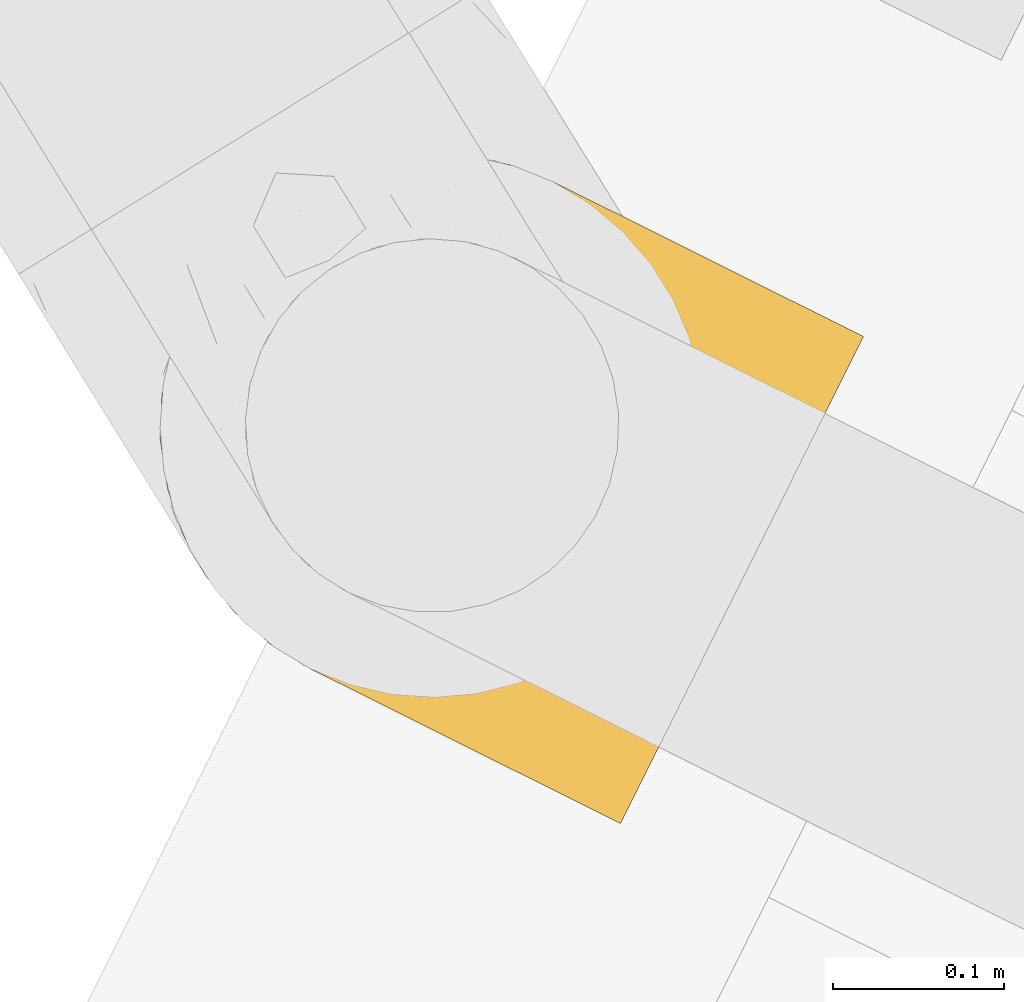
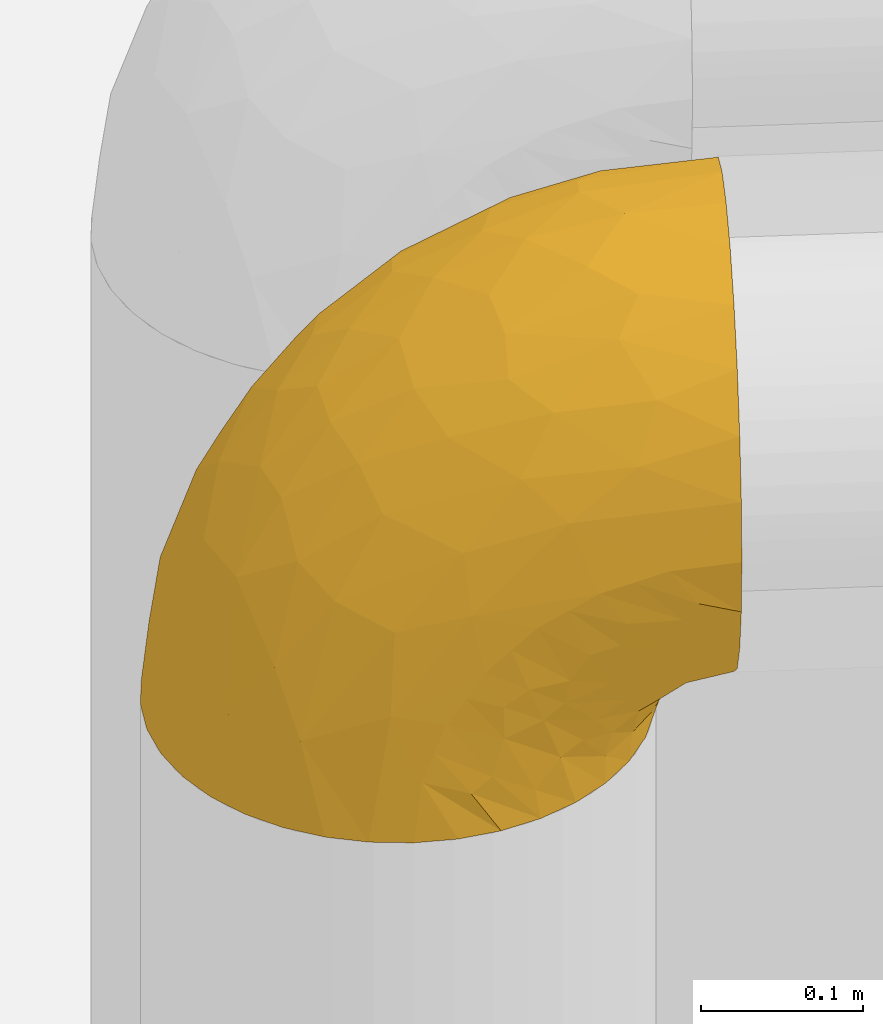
# One storey, part 43 of 91: 1 covering.
"""IFC2X3 building model written with IfcOpenShell, lengths in metres."""

from ifc_helpers import new_model, entity, si_unit, converted_unit, derived_unit, direction, frame, origin, place, context, subcontext, project, spatial, faceted_brep, element, save


model = new_model("IFC2X3")

# Units and contexts
model_context = context("Model", 3, precision=1e-05, world=origin(), true_north=direction((0.894925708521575, 0.446215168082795)))
context_of_model = context(None, 3, precision=1e-05, world=origin(), true_north=direction((0.894925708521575, 0.446215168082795)))
body_context = subcontext(model_context, "Body", "Model", "MODEL_VIEW")
ifc_project = project(units=[si_unit("LENGTHUNIT", "METRE"), si_unit("AREAUNIT", "SQUARE_METRE"), si_unit("VOLUMEUNIT", "CUBIC_METRE"), converted_unit("PLANEANGLEUNIT", "DEGREE", entity("IfcRatioMeasure", 0.0174532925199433), si_unit("PLANEANGLEUNIT", "RADIAN"), dimensions=[0, 0, 0, 0, 0, 0, 0]), si_unit("MASSUNIT", "GRAM", prefix="KILO"), si_unit("TIMEUNIT", "SECOND"), si_unit("FREQUENCYUNIT", "HERTZ"), si_unit("THERMODYNAMICTEMPERATUREUNIT", "DEGREE_CELSIUS"), derived_unit("THERMALTRANSMITTANCEUNIT", [(si_unit("MASSUNIT", "GRAM", prefix="KILO"), 1), (si_unit("THERMODYNAMICTEMPERATUREUNIT", "KELVIN"), -1), (si_unit("TIMEUNIT", "SECOND"), -3)]), derived_unit("VOLUMETRICFLOWRATEUNIT", [(si_unit("LENGTHUNIT", "METRE"), 3), (si_unit("TIMEUNIT", "SECOND"), -1)]), si_unit("ELECTRICCURRENTUNIT", "AMPERE"), si_unit("ELECTRICVOLTAGEUNIT", "VOLT"), si_unit("POWERUNIT", "WATT"), si_unit("FORCEUNIT", "NEWTON", prefix="KILO"), si_unit("ILLUMINANCEUNIT", "LUX"), si_unit("LUMINOUSFLUXUNIT", "LUMEN"), si_unit("LUMINOUSINTENSITYUNIT", "CANDELA"), si_unit("PRESSUREUNIT", "PASCAL")], contexts=[model_context, context_of_model])

# Site, building, storey
site_placement = place(None, frame((218.228324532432, 584.720189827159, 0.0), z_axis=(0.0, 0.0, 1.0), x_axis=(0.446215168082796, 0.894925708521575, 0.0)))
site = spatial("IfcSite", under=ifc_project, at=site_placement, Name="Default", CompositionType="ELEMENT")
building_placement = place(site_placement, origin())
building = spatial("IfcBuilding", under=site, at=building_placement, CompositionType="ELEMENT")
storey_placement = place(building_placement, origin())
storey = spatial("IfcBuildingStorey", under=building, at=storey_placement, Name="0 - Piano Terra", CompositionType="ELEMENT", Elevation=0.0)

# Covering
covering_placement = place(storey_placement, frame((-30.8033657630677, 5.93432603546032, 2.87140472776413)))
element("IfcCovering", 1, at=covering_placement, inside=storey, Name="Isolamento tubazione:Default", ObjectType="Isolamento tubazione:Default", PredefinedType="INSULATION", context=body_context, shape_type="Brep", body=[
    faceted_brep([(0.00401863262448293, 0.232297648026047, 0.00159527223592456), (0.0112173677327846, 0.259164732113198, 0.00159527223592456), (0.022972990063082, 0.284373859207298, 0.00159527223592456), (0.0389245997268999, 0.307154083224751, 0.00159527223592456), (0.0585869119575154, 0.326816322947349, 0.00159527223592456), (0.0813706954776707, 0.342769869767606, 0.00159527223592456), (0.106580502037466, 0.354524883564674, 0.00159527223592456), (0.133444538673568, 0.361722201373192, 0.00159527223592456), (0.161145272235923, 0.364145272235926, 0.00159527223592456), (0.188847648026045, 0.361721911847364, 0.00159527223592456), (0.215714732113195, 0.354523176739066, 0.00159527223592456), (0.240923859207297, 0.342767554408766, 0.00159527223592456), (0.26370408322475, 0.32681594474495, 0.00159527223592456), (0.283366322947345, 0.307153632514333, 0.00159527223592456), (0.299319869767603, 0.284369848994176, 0.00159527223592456), (0.311074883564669, 0.259160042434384, 0.00159527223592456), (0.318272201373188, 0.232296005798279, 0.00159527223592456), (0.320695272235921, 0.204595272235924, 0.00159527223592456), (0.319748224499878, 0.19376920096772, 0.00159527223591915), (0.318271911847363, 0.176892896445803, 0.00159527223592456), (0.314672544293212, 0.163459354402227, 0.00159527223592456), (0.311073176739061, 0.150025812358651, 0.00159527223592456), (0.299317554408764, 0.124816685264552, 0.00159527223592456), (0.283365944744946, 0.102036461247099, 0.00159527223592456), (0.263703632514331, 0.0823742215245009, 0.00159527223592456), (0.240919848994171, 0.0664206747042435, 0.00159527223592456), (0.21571004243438, 0.0546656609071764, 0.00159527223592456), (0.188846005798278, 0.047468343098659, 0.00159527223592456), (0.161145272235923, 0.0450452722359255, 0.00159527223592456), (0.133442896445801, 0.0474686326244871, 0.00159527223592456), (0.106575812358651, 0.0546673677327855, 0.00159527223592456), (0.0813666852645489, 0.066422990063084, 0.00159527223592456), (0.0585864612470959, 0.0823745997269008, 0.00159527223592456), (0.0389242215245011, 0.102036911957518, 0.00159527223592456), (0.0229706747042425, 0.124820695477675, 0.00159527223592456), (0.0112156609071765, 0.150030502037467, 0.00159527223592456), (0.00401834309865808, 0.176894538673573, 0.00159527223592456), (0.00254226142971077, 0.193769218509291, 0.00159527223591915), (0.00159527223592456, 0.204595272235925, 0.00159527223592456), (0.273964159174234, 0.0015952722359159, 0.0917763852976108), (0.28664189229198, 0.0015952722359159, 0.108298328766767), (0.299319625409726, 0.0015952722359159, 0.124820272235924), (0.307289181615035, 0.0015952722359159, 0.14406048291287), (0.315258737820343, 0.0015952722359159, 0.163300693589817), (0.317809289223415, 0.0015952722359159, 0.182674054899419), (0.319252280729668, 0.0015952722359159, 0.193634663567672), (0.320695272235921, 0.0015952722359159, 0.204595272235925), (0.315258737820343, 0.00159527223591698, 0.245889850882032), (0.29931962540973, 0.00159527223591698, 0.284370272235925), (0.273964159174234, 0.00159527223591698, 0.317414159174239), (0.24092027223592, 0.00159527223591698, 0.342769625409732), (0.202439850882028, 0.00159527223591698, 0.358708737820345), (0.161145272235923, 0.00159527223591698, 0.364145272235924), (0.119850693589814, 0.00159527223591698, 0.358708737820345), (0.0813702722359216, 0.00159527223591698, 0.342769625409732), (0.0483263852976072, 0.00159527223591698, 0.317414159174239), (0.0229709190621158, 0.00159527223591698, 0.284370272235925), (0.00703180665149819, 0.00159527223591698, 0.245889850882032), (0.00159527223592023, 0.0015952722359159, 0.204595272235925), (0.00303826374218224, 0.0015952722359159, 0.193634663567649), (0.00448125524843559, 0.0015952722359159, 0.182674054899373), (0.00703180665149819, 0.0015952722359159, 0.163300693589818), (0.0150013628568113, 0.0015952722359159, 0.144060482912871), (0.0229709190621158, 0.0015952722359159, 0.124820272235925), (0.0356486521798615, 0.0015952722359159, 0.108298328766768), (0.0483263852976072, 0.0015952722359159, 0.0917763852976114), (0.0813702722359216, 0.0015952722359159, 0.0664209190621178), (0.119850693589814, 0.0015952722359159, 0.050481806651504), (0.161145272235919, 0.0015952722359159, 0.0450452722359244), (0.202439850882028, 0.0015952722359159, 0.0504818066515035), (0.24092027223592, 0.0015952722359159, 0.0664209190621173), (0.257442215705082, 0.0015952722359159, 0.0790986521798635), (0.121118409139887, 0.0900951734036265, 0.347913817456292), (0.161145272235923, 0.0645514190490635, 0.3586373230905), (0.161145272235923, 0.12559467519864, 0.342280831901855), (0.0158233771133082, 0.173037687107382, 0.208704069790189), (0.00511463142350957, 0.168703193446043, 0.168703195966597), (0.0100299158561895, 0.108066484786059, 0.232411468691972), (0.00159527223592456, 0.128163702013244, 0.160307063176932), (0.00159527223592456, 0.108918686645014, 0.172399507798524), (0.00159527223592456, 0.0896736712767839, 0.184491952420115), (0.0934024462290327, 0.142688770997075, 0.319112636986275), (0.123575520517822, 0.150576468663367, 0.327193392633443), (0.12514635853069, 0.206213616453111, 0.295886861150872), (0.0570017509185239, 0.273081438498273, 0.178199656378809), (0.0431505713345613, 0.221076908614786, 0.221076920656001), (0.0705795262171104, 0.234774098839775, 0.241221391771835), (0.0944497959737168, 0.0599626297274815, 0.3446058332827), (0.0387310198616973, 0.0515208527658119, 0.302813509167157), (0.0129629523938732, 0.215857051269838, 0.152632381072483), (0.161145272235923, 0.18287027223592, 0.315572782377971), (0.161145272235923, 0.234637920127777, 0.279324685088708), (0.133516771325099, 0.256252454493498, 0.256252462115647), (0.161145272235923, 0.279324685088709, 0.234637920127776), (0.00159527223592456, 0.199505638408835, 0.0467670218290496), (0.00511463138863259, 0.21877290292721, 0.0947832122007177), (0.0446735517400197, 0.115600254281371, 0.292067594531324), (0.0260023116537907, 0.136729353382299, 0.25570716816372), (0.0179910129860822, 0.0646646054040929, 0.26767159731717), (0.0995927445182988, 0.342089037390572, 0.0834683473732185), (0.123595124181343, 0.327172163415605, 0.150634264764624), (0.131616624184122, 0.350066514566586, 0.0911457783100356), (0.00159527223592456, 0.0467670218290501, 0.199505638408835), (0.00159527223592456, 0.0239518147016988, 0.202076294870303), (0.00159527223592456, 0.0127735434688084, 0.203335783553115), (0.0700943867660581, 0.0737158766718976, 0.327735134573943), (0.161145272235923, 0.342280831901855, 0.12559467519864), (0.161145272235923, 0.315572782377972, 0.18287027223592), (0.00159527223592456, 0.068220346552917, 0.191998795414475), (0.021267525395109, 0.273493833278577, 0.0674034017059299), (0.102727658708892, 0.250122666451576, 0.250122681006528), (0.117904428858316, 0.292585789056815, 0.207684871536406), (0.0889801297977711, 0.281138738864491, 0.204290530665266), (0.0399396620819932, 0.288377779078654, 0.110477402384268), (0.0539804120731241, 0.316159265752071, 0.0665622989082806), (0.0327813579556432, 0.251447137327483, 0.163562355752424), (0.08249296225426, 0.309557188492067, 0.149912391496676), (0.161145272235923, 0.3586373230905, 0.0645514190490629), (0.00159527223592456, 0.203335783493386, 0.0127735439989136), (0.00159527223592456, 0.202076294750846, 0.0239518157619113), (0.00159527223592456, 0.184491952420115, 0.0896736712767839), (0.00159527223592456, 0.172399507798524, 0.108918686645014), (0.00159527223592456, 0.160307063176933, 0.128163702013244), (0.00159527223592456, 0.191998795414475, 0.068220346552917), (0.00159527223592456, 0.144235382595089, 0.144235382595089), (0.0877758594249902, 0.19927966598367, 0.283951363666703), (0.054731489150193, 0.180304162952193, 0.269306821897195), (0.0672704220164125, 0.141814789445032, 0.302542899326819), (0.128523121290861, 0.0408292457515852, 0.0271465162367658), (0.00445320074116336, 0.0284627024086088, 0.172432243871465), (0.0199006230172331, 0.128182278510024, 0.0253498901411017), (0.0071935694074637, 0.0376598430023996, 0.158613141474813), (0.0319186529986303, 0.0979970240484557, 0.0533645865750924), (0.0540740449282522, 0.0829606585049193, 0.0251720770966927), (0.0496629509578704, 0.078727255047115, 0.0457177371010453), (0.00670263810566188, 0.0951853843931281, 0.134992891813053), (0.00907190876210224, 0.107494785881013, 0.114409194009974), (0.0196472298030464, 0.0804950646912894, 0.104008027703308), (0.00748528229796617, 0.155605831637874, 0.045142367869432), (0.0796054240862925, 0.0312638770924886, 0.0603938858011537), (0.0544254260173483, 0.0260038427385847, 0.0823838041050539), (0.0528398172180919, 0.04672469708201, 0.0746164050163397), (0.0253226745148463, 0.112391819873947, 0.0457848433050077), (0.0117973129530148, 0.123613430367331, 0.0833280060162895), (0.00652119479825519, 0.148232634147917, 0.0742742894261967), (0.0588741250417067, 0.0620352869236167, 0.054825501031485), (0.030040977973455, 0.0904636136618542, 0.0698784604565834), (0.0760787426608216, 0.064633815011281, 0.02714361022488), (0.0332077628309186, 0.0541637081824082, 0.0955577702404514), (0.118919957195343, 0.0263992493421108, 0.0440145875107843), (0.0976175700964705, 0.0462280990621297, 0.0364709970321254), (0.00472404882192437, 0.133116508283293, 0.111751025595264), (0.00374166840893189, 0.148702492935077, 0.0998764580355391), (0.109201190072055, 0.050897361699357, 0.0185697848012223), (0.00491105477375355, 0.168975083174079, 0.0347995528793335), (0.036065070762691, 0.069816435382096, 0.080024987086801), (0.0304950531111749, 0.0207775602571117, 0.111352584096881), (0.161145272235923, 0.0392240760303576, 0.0233202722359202), (0.161145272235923, 0.0233202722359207, 0.0392240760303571), (0.0311379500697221, 0.0360215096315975, 0.106606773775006), (0.00450923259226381, 0.0724405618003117, 0.159036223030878), (0.00816115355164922, 0.0762577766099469, 0.140501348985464), (0.0170730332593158, 0.0687110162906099, 0.118092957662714), (0.0181870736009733, 0.0261891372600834, 0.13144064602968), (0.0131833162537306, 0.110544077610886, 0.0946896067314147), (0.0139794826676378, 0.0504309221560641, 0.134260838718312), (0.274129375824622, 0.0854589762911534, 0.0352015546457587), (0.292100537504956, 0.0913301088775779, 0.0683770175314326), (0.303732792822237, 0.117856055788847, 0.0628508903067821), (0.19223932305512, 0.0421616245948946, 0.0243434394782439), (0.202770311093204, 0.0292129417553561, 0.0420410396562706), (0.264371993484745, 0.0219615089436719, 0.0803473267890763), (0.284525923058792, 0.0268437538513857, 0.100255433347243), (0.308416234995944, 0.0982324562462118, 0.105120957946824), (0.31799859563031, 0.116013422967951, 0.132405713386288), (0.309124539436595, 0.0770762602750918, 0.123461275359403), (0.316918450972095, 0.142677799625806, 0.0937077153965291), (0.307193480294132, 0.108617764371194, 0.0899238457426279), (0.320695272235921, 0.172399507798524, 0.108918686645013), (0.317320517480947, 0.154525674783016, 0.076656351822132), (0.320695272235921, 0.0467670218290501, 0.199505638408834), (0.320695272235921, 0.0239518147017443, 0.202076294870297), (0.320695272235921, 0.0127735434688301, 0.20333578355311), (0.265794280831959, 0.0387154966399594, 0.0753443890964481), (0.284487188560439, 0.0449983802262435, 0.0936706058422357), (0.3178373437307, 0.028462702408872, 0.172432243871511), (0.211690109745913, 0.0511194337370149, 0.0163235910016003), (0.244180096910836, 0.0644557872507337, 0.024076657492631), (0.222113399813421, 0.0476548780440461, 0.0326633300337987), (0.307931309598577, 0.0492274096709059, 0.133742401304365), (0.303886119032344, 0.0255805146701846, 0.131110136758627), (0.265441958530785, 0.0713370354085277, 0.0452142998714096), (0.320695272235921, 0.068220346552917, 0.191998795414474), (0.285745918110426, 0.0636793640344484, 0.084214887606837), (0.315096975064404, 0.0376598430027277, 0.158613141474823), (0.320695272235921, 0.203335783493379, 0.0127735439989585), (0.320695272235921, 0.202076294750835, 0.0239518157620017), (0.320695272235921, 0.199505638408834, 0.0467670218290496), (0.289626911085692, 0.106279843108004, 0.0297424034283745), (0.316907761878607, 0.128674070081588, 0.112156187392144), (0.320695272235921, 0.144235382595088, 0.144235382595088), (0.308647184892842, 0.137474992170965, 0.0434416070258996), (0.241589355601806, 0.0296081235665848, 0.0604863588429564), (0.320695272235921, 0.184491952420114, 0.0896736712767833), (0.320695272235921, 0.191998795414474, 0.0682203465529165), (0.318279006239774, 0.175110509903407, 0.0268111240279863), (0.315202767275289, 0.159628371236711, 0.0348646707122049), (0.317948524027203, 0.101389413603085, 0.143549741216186), (0.320695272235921, 0.0896736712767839, 0.184491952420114), (0.241328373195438, 0.0449504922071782, 0.0501071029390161), (0.26830786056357, 0.0615544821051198, 0.0615545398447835), (0.317605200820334, 0.162967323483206, 0.0603958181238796), (0.318027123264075, 0.0775658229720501, 0.158071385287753), (0.320695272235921, 0.160307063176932, 0.128163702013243), (0.320695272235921, 0.128163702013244, 0.160307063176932), (0.320695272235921, 0.108918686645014, 0.172399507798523), (0.317175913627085, 0.168703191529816, 0.168703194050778), (0.188774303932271, 0.256252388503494, 0.256252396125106), (0.20438685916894, 0.292585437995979, 0.207685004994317), (0.303706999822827, 0.085870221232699, 0.262986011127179), (0.277616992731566, 0.115600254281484, 0.292067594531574), (0.283559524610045, 0.0515208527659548, 0.302813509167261), (0.31717591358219, 0.0947832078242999, 0.218772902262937), (0.268310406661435, 0.316158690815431, 0.0665638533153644), (0.301025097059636, 0.27348950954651, 0.0674051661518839), (0.31268812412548, 0.231435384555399, 0.107126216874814), (0.251711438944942, 0.261389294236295, 0.212070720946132), (0.279139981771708, 0.221076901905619, 0.221076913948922), (0.279786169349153, 0.261435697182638, 0.170072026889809), (0.219563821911, 0.250122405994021, 0.25012242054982), (0.250901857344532, 0.197311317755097, 0.273365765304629), (0.197144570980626, 0.206213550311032, 0.295886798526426), (0.227690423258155, 0.0896994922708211, 0.338268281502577), (0.252196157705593, 0.0737158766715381, 0.327735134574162), (0.190450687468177, 0.151012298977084, 0.328942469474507), (0.225073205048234, 0.204366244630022, 0.285870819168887), (0.228888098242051, 0.1426887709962, 0.319112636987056), (0.201172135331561, 0.0900951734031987, 0.347913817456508), (0.296737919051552, 0.190362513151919, 0.217897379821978), (0.312661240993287, 0.249198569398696, 0.0535290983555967), (0.254929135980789, 0.129404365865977, 0.308091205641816), (0.23979974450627, 0.309556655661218, 0.149910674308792), (0.22270210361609, 0.342087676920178, 0.0834663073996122), (0.198697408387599, 0.327171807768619, 0.150633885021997), (0.309327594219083, 0.152632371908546, 0.21585705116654), (0.28258368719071, 0.168253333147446, 0.258806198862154), (0.282352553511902, 0.288376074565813, 0.110476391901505), (0.190676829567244, 0.350067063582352, 0.0911414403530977), (0.30633820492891, 0.209361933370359, 0.172686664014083), (0.298229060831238, 0.253495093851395, 0.134122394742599)], [[[0, 1, 2, 3, 4, 5, 6, 7, 8, 9, 10, 11, 12, 13, 14, 15, 16, 17, 18, 19, 20, 21, 22, 23, 24, 25, 26, 27, 28, 29, 30, 31, 32, 33, 34, 35, 36, 37, 38]], [[39, 40, 41, 42, 43, 44, 45, 46, 47, 48, 49, 50, 51, 52, 53, 54, 55, 56, 57, 58, 59, 60, 61, 62, 63, 64, 65, 66, 67, 68, 69, 70, 71]], [[72, 73, 74]], [[73, 53, 52]], [[75, 76, 77]], [[76, 78, 79, 80]], [[81, 82, 83]], [[84, 85, 86]], [[87, 53, 72]], [[88, 56, 55]], [[89, 76, 75]], [[83, 82, 90]], [[91, 83, 90]], [[92, 91, 93]], [[0, 94, 95]], [[96, 97, 98]], [[99, 100, 101]], [[57, 102, 103, 104, 58]], [[55, 54, 105]], [[106, 100, 107]], [[98, 57, 56]], [[77, 80, 108, 102]], [[2, 1, 109]], [[102, 57, 77]], [[110, 111, 112]], [[89, 95, 76]], [[76, 80, 77]], [[91, 92, 83]], [[109, 113, 114]], [[115, 109, 89]], [[111, 107, 100]], [[109, 0, 95]], [[5, 99, 6]], [[105, 96, 88]], [[7, 6, 101]], [[99, 5, 114]], [[99, 114, 116]], [[99, 101, 6]], [[82, 81, 72]], [[4, 114, 5]], [[113, 116, 114]], [[117, 8, 7]], [[117, 101, 106]], [[114, 3, 2]], [[0, 38, 118, 119, 94]], [[95, 120, 121, 122]], [[110, 112, 86]], [[85, 84, 115]], [[85, 75, 97]], [[95, 94, 123, 120]], [[116, 112, 111]], [[76, 95, 122]], [[53, 73, 72]], [[76, 122, 124, 78]], [[99, 116, 100]], [[3, 114, 4]], [[2, 109, 114]], [[81, 105, 87]], [[125, 83, 110]], [[92, 111, 110]], [[0, 109, 1]], [[125, 126, 127]], [[89, 109, 95]], [[97, 75, 77]], [[115, 75, 85]], [[98, 97, 77]], [[97, 96, 126]], [[93, 107, 111]], [[83, 92, 110]], [[111, 92, 93]], [[116, 111, 100]], [[57, 98, 77]], [[98, 56, 88]], [[87, 105, 54]], [[105, 81, 127]], [[84, 112, 116]], [[112, 84, 86]], [[116, 113, 84]], [[115, 84, 113]], [[126, 86, 85]], [[125, 110, 86]], [[97, 126, 85]], [[127, 126, 96]], [[126, 125, 86]], [[83, 125, 81]], [[109, 115, 113]], [[75, 115, 89]], [[105, 127, 96]], [[125, 127, 81]], [[106, 101, 100]], [[7, 101, 117]], [[105, 88, 55]], [[98, 88, 96]], [[72, 74, 82]], [[90, 82, 74]], [[53, 87, 54]], [[81, 87, 72]], [[59, 58, 104, 103, 102, 61, 60]], [[29, 28, 128]], [[61, 129, 62]], [[130, 34, 33]], [[63, 62, 131]], [[102, 129, 61]], [[132, 133, 134]], [[135, 136, 137]], [[130, 138, 34]], [[139, 140, 141]], [[142, 143, 144]], [[134, 145, 146]], [[147, 31, 30]], [[141, 140, 148]], [[149, 68, 67]], [[67, 66, 139]], [[142, 32, 133]], [[134, 133, 147]], [[150, 128, 149]], [[136, 124, 151]], [[151, 122, 152]], [[147, 153, 150]], [[142, 33, 32]], [[30, 153, 147]], [[94, 35, 154]], [[138, 123, 154]], [[119, 118, 38, 37, 36, 94]], [[149, 67, 139]], [[145, 155, 146]], [[94, 36, 35]], [[156, 65, 64]], [[138, 130, 144]], [[157, 128, 28]], [[150, 153, 128]], [[154, 34, 138]], [[138, 120, 123]], [[149, 128, 158]], [[31, 133, 32]], [[31, 147, 133]], [[30, 29, 153]], [[145, 147, 150]], [[159, 148, 140]], [[144, 120, 138]], [[160, 131, 80]], [[161, 135, 162]], [[108, 131, 129]], [[80, 131, 108]], [[160, 163, 131]], [[150, 139, 145]], [[155, 141, 148]], [[142, 132, 143]], [[152, 144, 143]], [[108, 129, 102]], [[131, 62, 129]], [[29, 128, 153]], [[158, 128, 157]], [[149, 158, 68]], [[139, 150, 149]], [[164, 136, 151]], [[144, 152, 121]], [[164, 155, 137]], [[135, 78, 136]], [[145, 134, 147]], [[132, 134, 146]], [[143, 132, 146]], [[133, 132, 142]], [[33, 142, 130]], [[144, 130, 142]], [[141, 145, 139]], [[137, 155, 148]], [[137, 162, 135]], [[137, 136, 164]], [[162, 137, 148]], [[159, 162, 148]], [[160, 79, 161]], [[79, 78, 135]], [[161, 162, 165]], [[160, 161, 165]], [[79, 135, 161]], [[160, 165, 163]], [[79, 160, 80]], [[145, 141, 155]], [[140, 139, 66]], [[66, 65, 140]], [[159, 165, 162]], [[140, 65, 159]], [[64, 63, 163]], [[156, 159, 65]], [[131, 163, 63]], [[156, 165, 159]], [[64, 163, 156]], [[165, 156, 163]], [[121, 152, 122]], [[121, 120, 144]], [[151, 152, 143]], [[164, 151, 143]], [[143, 146, 164]], [[124, 136, 78]], [[124, 122, 151]], [[164, 146, 155]], [[94, 154, 123]], [[34, 154, 35]], [[24, 166, 25]], [[167, 166, 168]], [[158, 169, 170]], [[71, 171, 172]], [[158, 157, 169]], [[173, 174, 175]], [[168, 176, 177]], [[170, 68, 158]], [[178, 176, 179]], [[71, 70, 171]], [[45, 44, 43, 180, 181, 182, 46]], [[171, 183, 184]], [[43, 42, 185]], [[186, 187, 188]], [[172, 39, 71]], [[189, 190, 172]], [[191, 188, 187]], [[185, 192, 180]], [[191, 187, 166]], [[184, 183, 193]], [[27, 26, 186]], [[194, 42, 41]], [[18, 17, 195, 196, 197, 19]], [[187, 26, 25]], [[166, 187, 25]], [[24, 198, 166]], [[199, 200, 174]], [[23, 22, 201]], [[23, 198, 24]], [[186, 169, 27]], [[70, 69, 202]], [[203, 178, 179]], [[201, 168, 198]], [[204, 205, 197]], [[204, 206, 205]], [[175, 184, 193]], [[205, 20, 197]], [[174, 207, 175]], [[194, 208, 192]], [[68, 170, 69]], [[183, 209, 210]], [[166, 198, 168]], [[169, 28, 27]], [[167, 210, 191]], [[201, 198, 23]], [[203, 179, 211]], [[21, 206, 22]], [[185, 180, 43]], [[172, 190, 40]], [[194, 189, 212]], [[187, 186, 26]], [[169, 186, 188]], [[169, 188, 170]], [[169, 157, 28]], [[209, 170, 188]], [[69, 170, 202]], [[42, 194, 185]], [[192, 185, 194]], [[211, 204, 203]], [[201, 22, 206]], [[177, 176, 199]], [[193, 167, 173]], [[199, 176, 213]], [[213, 176, 178]], [[179, 168, 201]], [[200, 214, 174]], [[177, 199, 173]], [[199, 213, 200]], [[168, 179, 176]], [[179, 201, 211]], [[201, 206, 211]], [[204, 211, 206]], [[212, 175, 207]], [[199, 174, 173]], [[207, 174, 214]], [[172, 175, 189]], [[214, 215, 207]], [[208, 212, 215]], [[207, 215, 212]], [[194, 212, 208]], [[212, 189, 175]], [[167, 191, 166]], [[191, 210, 209]], [[20, 205, 21]], [[20, 19, 197]], [[206, 21, 205]], [[184, 172, 171]], [[70, 202, 171]], [[183, 171, 202]], [[175, 172, 184]], [[190, 41, 40]], [[190, 194, 41]], [[39, 172, 40]], [[194, 190, 189]], [[209, 183, 202]], [[193, 183, 210]], [[167, 193, 210]], [[175, 193, 173]], [[170, 209, 202]], [[191, 209, 188]], [[173, 167, 177]], [[168, 177, 167]], [[216, 208, 215, 214]], [[93, 217, 218]], [[219, 220, 221]], [[222, 46, 182, 181, 180]], [[222, 208, 216]], [[223, 224, 14]], [[203, 225, 216]], [[226, 227, 228]], [[14, 224, 15]], [[216, 214, 200, 213]], [[229, 230, 226]], [[217, 231, 229]], [[232, 50, 233]], [[90, 74, 234]], [[73, 52, 51]], [[223, 12, 11]], [[49, 48, 221]], [[235, 236, 230]], [[49, 233, 50]], [[74, 73, 237]], [[227, 238, 228]], [[236, 231, 234]], [[16, 15, 239]], [[234, 74, 237]], [[233, 240, 236]], [[231, 91, 90]], [[225, 203, 204, 197]], [[241, 242, 243]], [[222, 180, 192, 208]], [[107, 93, 218]], [[239, 197, 16]], [[16, 197, 196, 195, 17]], [[232, 51, 50]], [[244, 222, 216]], [[47, 222, 219]], [[245, 230, 240]], [[246, 224, 223]], [[243, 106, 107]], [[48, 47, 219]], [[14, 13, 223]], [[73, 51, 237]], [[11, 242, 223]], [[12, 223, 13]], [[247, 243, 242]], [[11, 10, 242]], [[243, 218, 241]], [[106, 243, 247]], [[91, 217, 93]], [[247, 9, 117]], [[46, 222, 47]], [[8, 117, 9]], [[248, 216, 225]], [[219, 222, 244]], [[242, 241, 223]], [[228, 248, 249]], [[244, 245, 219]], [[10, 9, 247]], [[244, 216, 248]], [[245, 244, 238]], [[216, 213, 178, 203]], [[241, 246, 223]], [[249, 224, 246]], [[239, 224, 225]], [[249, 225, 224]], [[238, 244, 248]], [[231, 217, 91]], [[218, 217, 229]], [[218, 229, 226]], [[107, 218, 243]], [[249, 246, 228]], [[248, 225, 249]], [[233, 49, 221]], [[232, 233, 236]], [[224, 239, 15]], [[197, 239, 225]], [[246, 241, 228]], [[231, 235, 229]], [[228, 241, 226]], [[218, 226, 241]], [[230, 236, 240]], [[227, 226, 230]], [[228, 238, 248]], [[245, 238, 227]], [[230, 245, 227]], [[219, 245, 220]], [[247, 242, 10]], [[106, 247, 117]], [[219, 221, 48]], [[233, 221, 220]], [[236, 234, 237]], [[90, 234, 231]], [[233, 220, 240]], [[240, 220, 245]], [[236, 237, 232]], [[232, 237, 51]], [[236, 235, 231]], [[230, 229, 235]]]),
])

save(model, "model.ifc")
